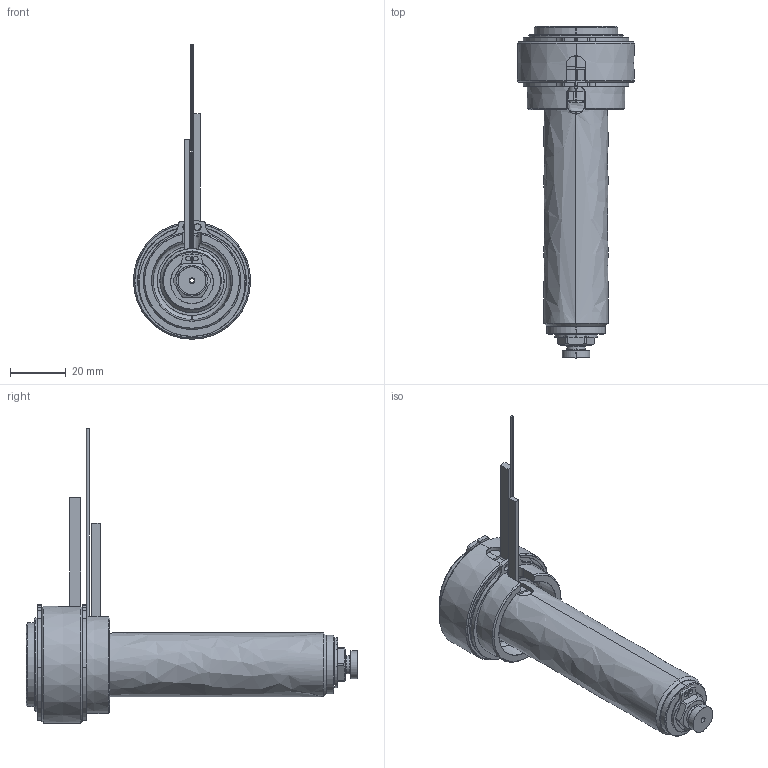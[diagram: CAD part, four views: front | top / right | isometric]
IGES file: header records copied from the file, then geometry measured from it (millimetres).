
Start section: SolidWorks IGES file using analytic representation for surfaces
Global section: file name: C:\Users\luca.EMPAD\Desktop\TEM\UGBE3502-M-A-3 [Ød-1.5 P-0 ØC-6.0].IGS; native system: SolidWorks 2012; preprocessor: SolidWorks 2012; author: luca; date: 120330.135623; units: millimetre
Bounding box: 42 x 119 x 105.6 mm (x, y, z)
Surface area: 27662.8 mm2 (no closed solid volume)
Topology: 0 solids, 0 shells, 183 faces, 3238 edges, 3238 vertices
Faces by surface type: revolution 116, bspline 67
